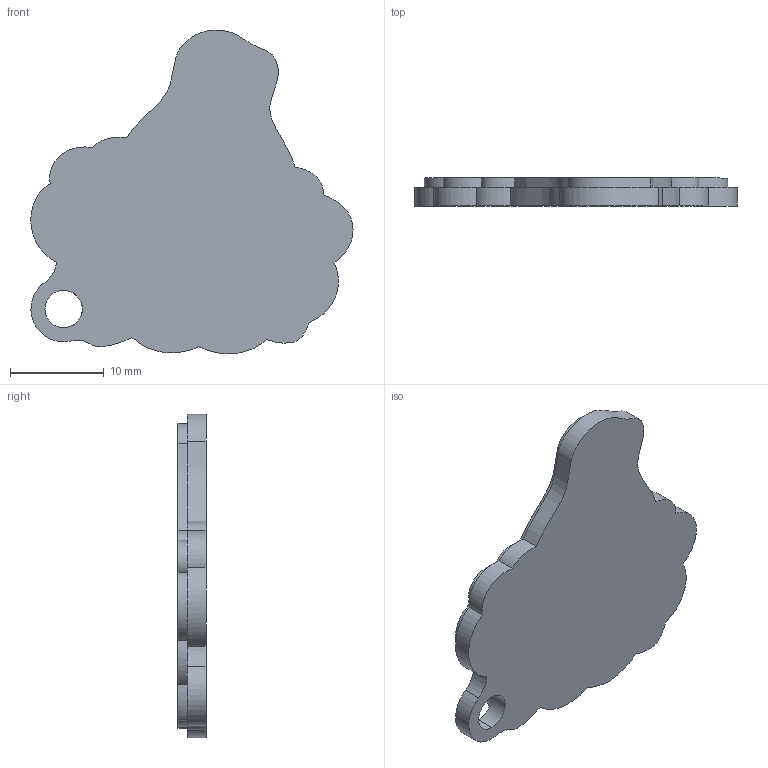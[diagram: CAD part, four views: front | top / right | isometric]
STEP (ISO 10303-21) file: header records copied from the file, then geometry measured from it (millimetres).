
FILE_DESCRIPTION (( 'STEP AP214' ), '1' );
FILE_NAME ('broccokeychain.STEP', '2023-06-08T03:35:59', ( '' ), ( '' ), 'SwSTEP 2.0', 'SolidWorks 2022', '' );
FILE_SCHEMA (( 'AUTOMOTIVE_DESIGN' ));
Length unit declared in the file: millimetre
Products named in the file (1): broccokeychain
Bounding box: 34.44 x 3 x 34.61 mm (x, y, z)
Volume: 1756.4 mm3; surface area: 2192.3 mm2
Topology: 1 solids, 1 shells, 115 faces, 322 edges, 214 vertices
Faces by surface type: bspline 84, cylinder 22, plane 9
Entity records: 4865 total; most frequent: CARTESIAN_POINT 2405, ORIENTED_EDGE 644, EDGE_CURVE 322, DIRECTION 262, VERTEX_POINT 214, B_SPLINE_CURVE_WITH_KNOTS 170, EDGE_LOOP 122, FACE_OUTER_BOUND 115
